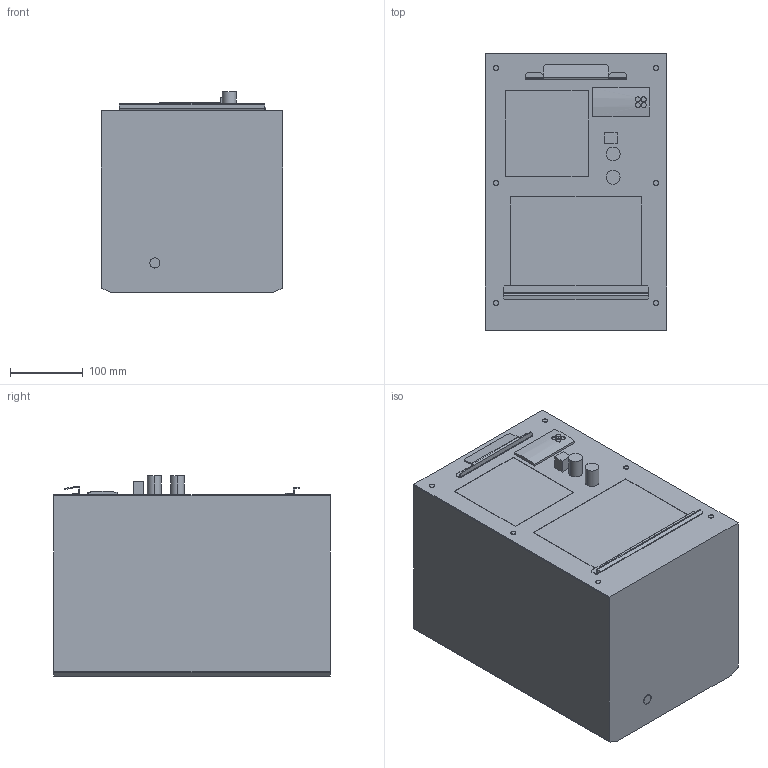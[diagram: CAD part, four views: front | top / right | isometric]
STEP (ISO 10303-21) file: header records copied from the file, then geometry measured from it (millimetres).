
FILE_DESCRIPTION((''),'2;1');
FILE_NAME('OC8703_06-STP_ASM','2023-12-04T12:13:10',('danielc'),(''),'CREO PARAMETRIC BY PTC INC, 2019080','CREO PARAMETRIC BY PTC INC, 2019080','');
FILE_SCHEMA(('CONFIG_CONTROL_DESIGN','SHAPE_APPEARANCE_LAYERS_GROUPS'));
Length unit declared in the file: millimetre
Products named in the file (6): OC8703_06-MOUNTING-BRACKET_1; OC8706_3-MOUNTING-BKT-TOP_1; OC8703_06-HOUSING_ASM_1_ASM; PRT0001_1; OC8703_06-COMPLETE_ASM_1_ASM; OC8703_06-STP_ASM
Assembly tree (5 placements, depth 4):
  OC8703_06-STP_ASM
    OC8703_06-COMPLETE_ASM_1_ASM
      OC8703_06-HOUSING_ASM_1_ASM
        OC8703_06-MOUNTING-BRACKET_1
        OC8706_3-MOUNTING-BKT-TOP_1
      PRT0001_1
Bounding box: 250 x 380 x 276 mm (x, y, z)
Volume: 23721256.9 mm3; surface area: 527088.6 mm2
Topology: 3 solids, 3 shells, 146 faces, 328 edges, 208 vertices
Faces by surface type: plane 105, cylinder 41
Entity records: 5330 total; most frequent: CARTESIAN_POINT 782, DIRECTION 726, ORIENTED_EDGE 656, PRESENTATION_STYLE_ASSIGNMENT 337, STYLED_ITEM 337, CURVE_STYLE 334, EDGE_CURVE 328, VECTOR 246
